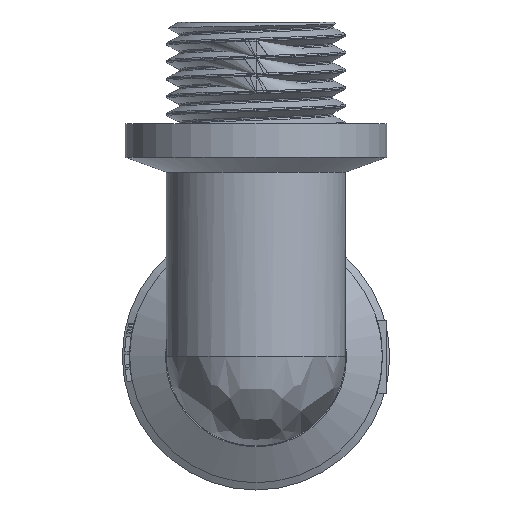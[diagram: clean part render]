
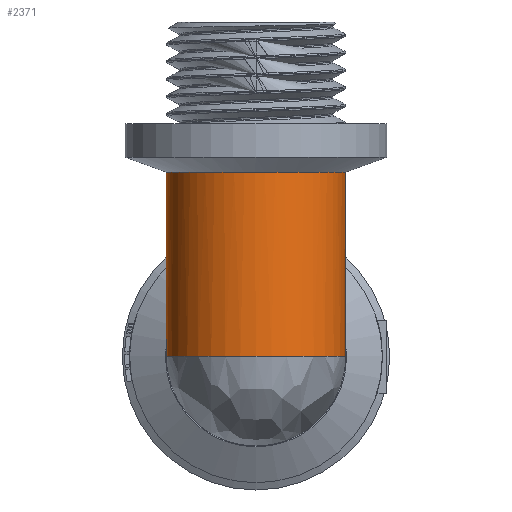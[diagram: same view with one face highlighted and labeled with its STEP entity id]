
A CAD part, front view. The second image highlights one B-rep face of the part: STEP entity #2371.
In plain terms, the highlighted cylindrical face has radius 9.25 mm (diameter 18.5 mm), a full revolution.
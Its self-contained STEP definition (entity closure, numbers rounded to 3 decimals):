
#92=B_SPLINE_CURVE_WITH_KNOTS('',3,(#3920,#3921,#3922,#3923,#3924,#3925,
#3926,#3927,#3928,#3929,#3930,#3931,#3932,#3933,#3934,#3935,#3936,#3937,
#3938),.UNSPECIFIED.,.F.,.F.,(4,2,2,2,3,2,2,2,4),(-1.394,-1.045,
-0.697,-0.348,0.,0.348,0.697,
1.045,1.394),.UNSPECIFIED.);
#93=B_SPLINE_CURVE_WITH_KNOTS('',3,(#3939,#3940,#3941,#3942),
 .UNSPECIFIED.,.F.,.F.,(4,4),(-1.394,-1.394),
 .UNSPECIFIED.);
#242=ELLIPSE('',#2593,13.081,9.25);
#348=FACE_OUTER_BOUND('',#495,.T.);
#495=EDGE_LOOP('',(#2043,#2044,#2045,#2046,#2047,#2048,#2049,#2050));
#665=LINE('',#4306,#811);
#811=VECTOR('',#3138,9.25);
#866=CIRCLE('',#2518,9.25);
#912=CIRCLE('',#2610,9.25);
#913=CIRCLE('',#2611,9.25);
#1015=VERTEX_POINT('',#3898);
#1016=VERTEX_POINT('',#3899);
#1023=VERTEX_POINT('',#3919);
#1088=VERTEX_POINT('',#4134);
#1090=VERTEX_POINT('',#4137);
#1105=VERTEX_POINT('',#4305);
#1298=EDGE_CURVE('',#1015,#1016,#866,.T.);
#1308=EDGE_CURVE('',#1023,#1015,#92,.T.);
#1309=EDGE_CURVE('',#1016,#1023,#93,.T.);
#1396=EDGE_CURVE('',#1088,#1090,#242,.T.);
#1429=EDGE_CURVE('',#1023,#1105,#665,.T.);
#1430=EDGE_CURVE('',#1105,#1090,#912,.T.);
#1431=EDGE_CURVE('',#1088,#1105,#913,.T.);
#2043=ORIENTED_EDGE('',*,*,#1298,.T.);
#2044=ORIENTED_EDGE('',*,*,#1309,.T.);
#2045=ORIENTED_EDGE('',*,*,#1429,.T.);
#2046=ORIENTED_EDGE('',*,*,#1430,.T.);
#2047=ORIENTED_EDGE('',*,*,#1396,.F.);
#2048=ORIENTED_EDGE('',*,*,#1431,.T.);
#2049=ORIENTED_EDGE('',*,*,#1429,.F.);
#2050=ORIENTED_EDGE('',*,*,#1308,.T.);
#2255=CYLINDRICAL_SURFACE('',#2609,9.25);
#2371=ADVANCED_FACE('',(#348),#2255,.T.);
#2518=AXIS2_PLACEMENT_3D('',#3900,#2883,#2884);
#2593=AXIS2_PLACEMENT_3D('',#4138,#3079,#3080);
#2609=AXIS2_PLACEMENT_3D('',#4304,#3136,#3137);
#2610=AXIS2_PLACEMENT_3D('',#4307,#3139,#3140);
#2611=AXIS2_PLACEMENT_3D('',#4308,#3141,#3142);
#2883=DIRECTION('center_axis',(0.,0.,-1.));
#2884=DIRECTION('ref_axis',(-1.,0.,0.));
#3079=DIRECTION('center_axis',(0.,0.707,-0.707));
#3080=DIRECTION('ref_axis',(0.,-0.707,-0.707));
#3136=DIRECTION('center_axis',(0.,0.,1.));
#3137=DIRECTION('ref_axis',(-1.,0.,0.));
#3138=DIRECTION('',(0.,0.,-1.));
#3139=DIRECTION('center_axis',(0.,0.,1.));
#3140=DIRECTION('ref_axis',(-1.,0.,0.));
#3141=DIRECTION('center_axis',(0.,0.,1.));
#3142=DIRECTION('ref_axis',(-1.,0.,0.));
#3898=CARTESIAN_POINT('',(-9.25,-32.5,19.001));
#3899=CARTESIAN_POINT('',(9.25,-32.5,19.001));
#3900=CARTESIAN_POINT('Origin',(0.,-32.5,19.001));
#3919=CARTESIAN_POINT('',(9.25,-32.5,19.001));
#3920=CARTESIAN_POINT('Ctrl Pts',(9.25,-32.5,19.001));
#3921=CARTESIAN_POINT('Ctrl Pts',(9.25,-33.661,19.001));
#3922=CARTESIAN_POINT('Ctrl Pts',(9.018,-34.9,19.001));
#3923=CARTESIAN_POINT('Ctrl Pts',(8.074,-37.179,19.001));
#3924=CARTESIAN_POINT('Ctrl Pts',(7.362,-38.219,19.001));
#3925=CARTESIAN_POINT('Ctrl Pts',(5.72,-39.862,19.001));
#3926=CARTESIAN_POINT('Ctrl Pts',(4.68,-40.574,19.001));
#3927=CARTESIAN_POINT('Ctrl Pts',(2.401,-41.518,19.001));
#3928=CARTESIAN_POINT('Ctrl Pts',(1.162,-41.75,19.001));
#3929=CARTESIAN_POINT('Ctrl Pts',(0.,-41.75,19.001));
#3930=CARTESIAN_POINT('Ctrl Pts',(-1.162,-41.75,19.001));
#3931=CARTESIAN_POINT('Ctrl Pts',(-2.401,-41.518,19.001));
#3932=CARTESIAN_POINT('Ctrl Pts',(-4.68,-40.574,19.001));
#3933=CARTESIAN_POINT('Ctrl Pts',(-5.72,-39.862,19.001));
#3934=CARTESIAN_POINT('Ctrl Pts',(-7.362,-38.219,19.001));
#3935=CARTESIAN_POINT('Ctrl Pts',(-8.074,-37.179,19.001));
#3936=CARTESIAN_POINT('Ctrl Pts',(-9.018,-34.9,19.001));
#3937=CARTESIAN_POINT('Ctrl Pts',(-9.25,-33.661,19.001));
#3938=CARTESIAN_POINT('Ctrl Pts',(-9.25,-32.5,19.001));
#3939=CARTESIAN_POINT('Ctrl Pts',(9.25,-32.5,19.001));
#3940=CARTESIAN_POINT('Ctrl Pts',(9.25,-32.5,19.001));
#3941=CARTESIAN_POINT('Ctrl Pts',(9.25,-32.5,19.001));
#3942=CARTESIAN_POINT('Ctrl Pts',(9.25,-32.5,19.001));
#4134=CARTESIAN_POINT('',(-9.25,-32.499,0.001));
#4137=CARTESIAN_POINT('',(9.25,-32.499,0.001));
#4138=CARTESIAN_POINT('Origin',(0.,-32.5,0.));
#4304=CARTESIAN_POINT('Origin',(0.,-32.5,0.001));
#4305=CARTESIAN_POINT('',(9.25,-32.5,0.001));
#4306=CARTESIAN_POINT('',(9.25,-32.5,0.001));
#4307=CARTESIAN_POINT('Origin',(0.,-32.5,0.001));
#4308=CARTESIAN_POINT('Origin',(0.,-32.5,0.001));
